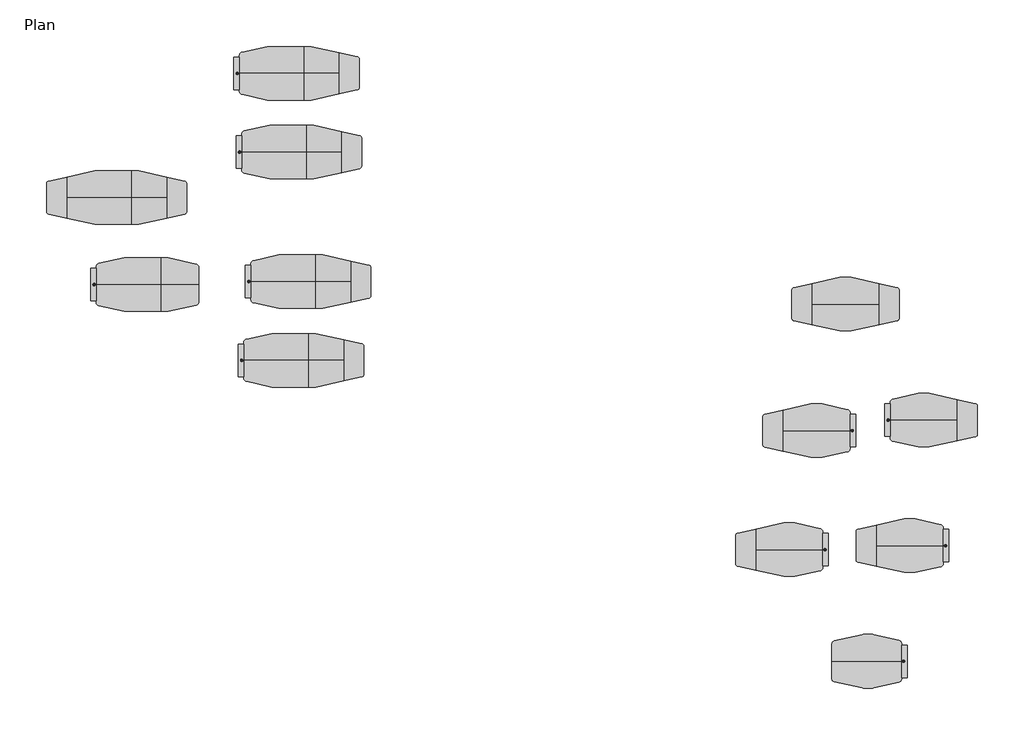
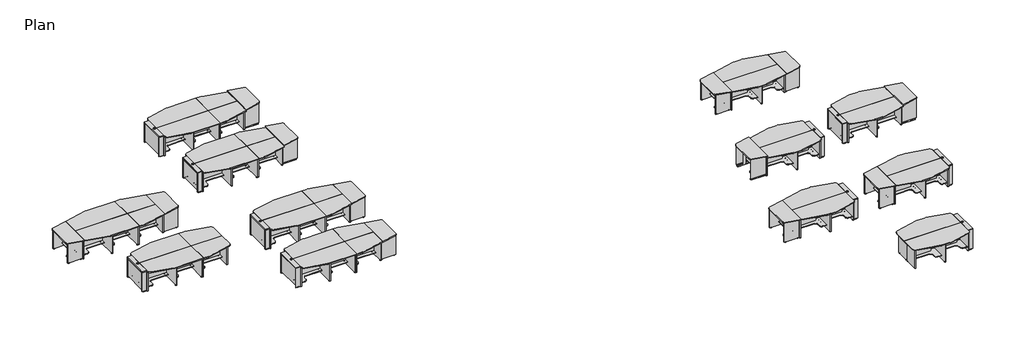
# One storey, incomplete: 12 furniture elements.
"""IFC4 building model written with IfcOpenShell, lengths in millimetres."""

from ifc_helpers import new_model, si_unit, origin, place, context, project, spatial, transform, mapped, element, save
from components import furniture_4_person_w_wire_compartment_36183c5d, furniture_4_person_w_wire_compartment_91efd73a, furniture_5_person_w_wire_compartment_perforated_70c40dab, furniture_5_person_w_wire_compartment_perforated_3ae8978b, furniture_5_person_w_wire_compartment_perforated_82e77ec8, furniture_5_person_w_wire_compartment_ada_perforated_2b3411b6, furniture_5_person_w_wire_compartment_ada_perforated_266a7b52, furniture_6_person_6b015cb4, furniture_6_person_dfd8cc7e, furniture_6_person_ace36e72, furniture_6_person_w_wire_compartment_566aee02, furniture_6_person_w_wire_compartment_4a659a42, furniture_6_person_w_wire_compartment_cabafdbb, furniture_7_person_w_wire_compartment_perforated_d2921011, furniture_7_person_w_wire_compartment_perforated_f4f33cce, furniture_7_person_w_wire_compartment_perforated_33649b7c, furniture_7_person_w_wire_compartment_perforated_2ec6243c, furniture_7_person_w_wire_compartment_ada_2b6aad6f, furniture_8_person_w_wire_compartment_c8a4825b, furniture_8_person_w_wire_compartment_190e666a, furniture_8_person_w_wire_compartment_3d312d08

model = new_model("IFC4")

# Units and contexts
model_context = context("Model", 3, world=origin())
ifc_project = project(units=[si_unit("LENGTHUNIT", "METRE", prefix="MILLI")], contexts=[model_context])

# Site, building, storey
site = spatial("IfcSite", under=ifc_project)
building = spatial("IfcBuilding", under=site)
storey = spatial("IfcBuildingStorey", under=building, Name="Plan", Elevation=0.0)

# Furniture
placement = place(None, origin())
furniture_4_person_w_wire_compartment_shape = furniture_4_person_w_wire_compartment_36183c5d(model_context)
furniture_4_person_w_wire_compartment_2_shape = furniture_4_person_w_wire_compartment_91efd73a(model_context)
element("IfcFurniture", 1, ObjectType="Nova Solutions - Collaboration Table - Boat_4-6 person : 4 person w/ Wire Compartment", at=placement, inside=storey, context=model_context, shape_type="MappedRepresentation", body=[
    mapped(furniture_4_person_w_wire_compartment_shape, transform((24037.5011826, -10913.4071158, 0.0), x_axis=(1.0, 0.0, 0.0), y_axis=(0.0, 1.0, 0.0), z_axis=(0.0, 0.0, 1.0))),
    mapped(furniture_4_person_w_wire_compartment_2_shape, transform((24037.5011826, -10913.4071158, 0.0), x_axis=(1.0, 0.0, 0.0), y_axis=(0.0, 1.0, 0.0), z_axis=(0.0, 0.0, 1.0))),
])
furniture_5_person_w_wire_compartment_perforated_shape = furniture_5_person_w_wire_compartment_perforated_70c40dab(model_context)
furniture_5_person_w_wire_compartment_perforated_2_shape = furniture_5_person_w_wire_compartment_perforated_3ae8978b(model_context)
furniture_5_person_w_wire_compartment_perforated_3_shape = furniture_5_person_w_wire_compartment_perforated_82e77ec8(model_context)
element("IfcFurniture", 2, ObjectType="Nova Solutions - Collaboration Table - Boat_4-6 person : 5 person w/ Wire Compartment", at=placement, inside=storey, context=model_context, shape_type="MappedRepresentation", body=[
    mapped(furniture_5_person_w_wire_compartment_perforated_shape, transform((25217.4890139, -7643.5156998, 0.0), x_axis=(1.0, 0.0, 0.0), y_axis=(0.0, 1.0, 0.0), z_axis=(0.0, 0.0, 1.0))),
    mapped(furniture_5_person_w_wire_compartment_perforated_2_shape, transform((25217.4890139, -7643.5156998, 0.0), x_axis=(1.0, 0.0, 0.0), y_axis=(0.0, 1.0, 0.0), z_axis=(0.0, 0.0, 1.0))),
    mapped(furniture_5_person_w_wire_compartment_perforated_3_shape, transform((25217.4890139, -7643.5156998, 0.0), x_axis=(1.0, 0.0, 0.0), y_axis=(0.0, 1.0, 0.0), z_axis=(0.0, 0.0, 1.0))),
])
furniture_5_person_w_wire_compartment_ada_perforated_shape = furniture_5_person_w_wire_compartment_ada_perforated_2b3411b6(model_context)
furniture_5_person_w_wire_compartment_ada_perforated_2_shape = furniture_5_person_w_wire_compartment_ada_perforated_266a7b52(model_context)
element("IfcFurniture", 3, ObjectType="Nova Solutions - Collaboration Table - Boat_4-6 person : 5 person w/ Wire Compartment - ADA", at=placement, inside=storey, context=model_context, shape_type="MappedRepresentation", body=[
    mapped(furniture_5_person_w_wire_compartment_ada_perforated_shape, transform((25561.2910072, -4092.2532152, 0.0), x_axis=(-1.0, 0.0, 0.0), y_axis=(0.0, -1.0, 0.0), z_axis=(0.0, 0.0, 1.0))),
    mapped(furniture_5_person_w_wire_compartment_ada_perforated_2_shape, transform((25561.2910072, -4092.2532152, 0.0), x_axis=(-1.0, 0.0, 0.0), y_axis=(0.0, -1.0, 0.0), z_axis=(0.0, 0.0, 1.0))),
])
element("IfcFurniture", 4, ObjectType="Nova Solutions - Collaboration Table - Boat_4-6 person : 5 person w/ Wire Compartment - ADA - Perforated", at=placement, inside=storey, context=model_context, shape_type="MappedRepresentation", body=[
    mapped(furniture_5_person_w_wire_compartment_ada_perforated_shape, transform((22582.6804324, -4390.3588772, 0.0), x_axis=(1.0, 0.0, 0.0), y_axis=(0.0, 1.0, 0.0), z_axis=(0.0, 0.0, 1.0))),
    mapped(furniture_5_person_w_wire_compartment_ada_perforated_2_shape, transform((22582.6804324, -4390.3588772, 0.0), x_axis=(1.0, 0.0, 0.0), y_axis=(0.0, 1.0, 0.0), z_axis=(0.0, 0.0, 1.0))),
])
element("IfcFurniture", 5, ObjectType="Nova Solutions - Collaboration Table - Boat_4-6 person : 5 person w/ Wire Compartment - Perforated", at=placement, inside=storey, context=model_context, shape_type="MappedRepresentation", body=[
    mapped(furniture_5_person_w_wire_compartment_perforated_shape, transform((21811.4609826, -7756.3223711, 0.0), x_axis=(1.0, 0.0, 0.0), y_axis=(0.0, 1.0, 0.0), z_axis=(0.0, 0.0, 1.0))),
    mapped(furniture_5_person_w_wire_compartment_perforated_2_shape, transform((21811.4609826, -7756.3223711, 0.0), x_axis=(1.0, 0.0, 0.0), y_axis=(0.0, 1.0, 0.0), z_axis=(0.0, 0.0, 1.0))),
    mapped(furniture_5_person_w_wire_compartment_perforated_3_shape, transform((21811.4609826, -7756.3223711, 0.0), x_axis=(1.0, 0.0, 0.0), y_axis=(0.0, 1.0, 0.0), z_axis=(0.0, 0.0, 1.0))),
])
furniture_6_person_shape = furniture_6_person_6b015cb4(model_context)
furniture_6_person_2_shape = furniture_6_person_dfd8cc7e(model_context)
furniture_6_person_3_shape = furniture_6_person_ace36e72(model_context)
element("IfcFurniture", 6, ObjectType="Nova Solutions - Collaboration Table - Boat_4-6 person : 6 person", at=placement, inside=storey, context=model_context, shape_type="MappedRepresentation", body=[
    mapped(furniture_6_person_shape, transform((23400.7154796, -810.8116908, 0.0), x_axis=(1.0, 0.0, 0.0), y_axis=(0.0, 1.0, 0.0), z_axis=(0.0, 0.0, 1.0))),
    mapped(furniture_6_person_2_shape, transform((23400.7154796, -810.8116908, 0.0), x_axis=(1.0, 0.0, 0.0), y_axis=(0.0, 1.0, 0.0), z_axis=(0.0, 0.0, 1.0))),
    mapped(furniture_6_person_3_shape, transform((23400.7154796, -810.8116908, 0.0), x_axis=(1.0, 0.0, 0.0), y_axis=(0.0, 1.0, 0.0), z_axis=(0.0, 0.0, 1.0))),
])
furniture_6_person_w_wire_compartment_shape = furniture_6_person_w_wire_compartment_566aee02(model_context)
furniture_6_person_w_wire_compartment_2_shape = furniture_6_person_w_wire_compartment_4a659a42(model_context)
furniture_6_person_w_wire_compartment_3_shape = furniture_6_person_w_wire_compartment_cabafdbb(model_context)
element("IfcFurniture", 7, ObjectType="Nova Solutions - Collaboration Table - Boat_6-8 person : 6 person w/ Wire Compartment", at=placement, inside=storey, context=model_context, shape_type="MappedRepresentation", body=[
    mapped(furniture_6_person_w_wire_compartment_shape, transform((3100.4930544, -257.0656341, 0.0), x_axis=(-1.0, 0.0, 0.0), y_axis=(0.0, -1.0, 0.0), z_axis=(0.0, 0.0, 1.0))),
    mapped(furniture_6_person_w_wire_compartment_2_shape, transform((3100.4930544, -257.0656341, 0.0), x_axis=(-1.0, 0.0, 0.0), y_axis=(0.0, -1.0, 0.0), z_axis=(0.0, 0.0, 1.0))),
    mapped(furniture_6_person_w_wire_compartment_3_shape, transform((3100.4930544, -257.0656341, 0.0), x_axis=(-1.0, 0.0, 0.0), y_axis=(0.0, -1.0, 0.0), z_axis=(0.0, 0.0, 1.0))),
])
furniture_7_person_w_wire_compartment_perforated_shape = furniture_7_person_w_wire_compartment_perforated_d2921011(model_context)
furniture_7_person_w_wire_compartment_perforated_2_shape = furniture_7_person_w_wire_compartment_perforated_f4f33cce(model_context)
furniture_7_person_w_wire_compartment_perforated_3_shape = furniture_7_person_w_wire_compartment_perforated_33649b7c(model_context)
furniture_7_person_w_wire_compartment_perforated_4_shape = furniture_7_person_w_wire_compartment_perforated_2ec6243c(model_context)
element("IfcFurniture", 8, ObjectType="Nova Solutions - Collaboration Table - Boat_6-8 person : 7 person w/ Wire Compartment", at=placement, inside=storey, context=model_context, shape_type="MappedRepresentation", body=[
    mapped(furniture_7_person_w_wire_compartment_perforated_shape, transform((7274.2939675, -2400.2620347, 0.0), x_axis=(-1.0, 0.0, 0.0), y_axis=(0.0, -1.0, 0.0), z_axis=(0.0, 0.0, 1.0))),
    mapped(furniture_7_person_w_wire_compartment_perforated_2_shape, transform((7274.2939675, -2400.2620347, 0.0), x_axis=(-1.0, 0.0, 0.0), y_axis=(0.0, -1.0, 0.0), z_axis=(0.0, 0.0, 1.0))),
    mapped(furniture_7_person_w_wire_compartment_perforated_3_shape, transform((7274.2939675, -2400.2620347, 0.0), x_axis=(-1.0, 0.0, 0.0), y_axis=(0.0, -1.0, 0.0), z_axis=(0.0, 0.0, 1.0))),
    mapped(furniture_7_person_w_wire_compartment_perforated_4_shape, transform((7274.2939675, -2400.2620347, 0.0), x_axis=(-1.0, 0.0, 0.0), y_axis=(0.0, -1.0, 0.0), z_axis=(0.0, 0.0, 1.0))),
])
furniture_7_person_w_wire_compartment_ada_shape = furniture_7_person_w_wire_compartment_ada_2b6aad6f(model_context)
element("IfcFurniture", 9, ObjectType="Nova Solutions - Collaboration Table - Boat_6-8 person : 7 person w/ Wire Compartment - ADA", at=placement, inside=storey, context=model_context, shape_type="MappedRepresentation", body=[
    mapped(furniture_7_person_w_wire_compartment_ada_shape, transform((7212.8928426, 3491.61273, 0.0), x_axis=(-1.0, 0.0, 0.0), y_axis=(0.0, -1.0, 0.0), z_axis=(0.0, 0.0, 1.0))),
    mapped(furniture_6_person_w_wire_compartment_2_shape, transform((7212.8928426, 3491.61273, 0.0), x_axis=(-1.0, 0.0, 0.0), y_axis=(0.0, -1.0, 0.0), z_axis=(0.0, 0.0, 1.0))),
    mapped(furniture_6_person_w_wire_compartment_3_shape, transform((7212.8928426, 3491.61273, 0.0), x_axis=(-1.0, 0.0, 0.0), y_axis=(0.0, -1.0, 0.0), z_axis=(0.0, 0.0, 1.0))),
])
element("IfcFurniture", 10, ObjectType="Nova Solutions - Collaboration Table - Boat_6-8 person : 7 person w/ Wire Compartment - Perforated", at=placement, inside=storey, context=model_context, shape_type="MappedRepresentation", body=[
    mapped(furniture_7_person_w_wire_compartment_perforated_shape, transform((7474.4236604, -174.5877167, 0.0), x_axis=(-1.0, 0.0, 0.0), y_axis=(0.0, -1.0, 0.0), z_axis=(0.0, 0.0, 1.0))),
    mapped(furniture_7_person_w_wire_compartment_perforated_2_shape, transform((7474.4236604, -174.5877167, 0.0), x_axis=(-1.0, 0.0, 0.0), y_axis=(0.0, -1.0, 0.0), z_axis=(0.0, 0.0, 1.0))),
    mapped(furniture_7_person_w_wire_compartment_perforated_3_shape, transform((7474.4236604, -174.5877167, 0.0), x_axis=(-1.0, 0.0, 0.0), y_axis=(0.0, -1.0, 0.0), z_axis=(0.0, 0.0, 1.0))),
    mapped(furniture_7_person_w_wire_compartment_perforated_4_shape, transform((7474.4236604, -174.5877167, 0.0), x_axis=(-1.0, 0.0, 0.0), y_axis=(0.0, -1.0, 0.0), z_axis=(0.0, 0.0, 1.0))),
])
element("IfcFurniture", 11, ObjectType="Nova Solutions - Collaboration Table - Boat_6-8 person : 7 person w/ Wire Compartment - Perforated - ADA", at=placement, inside=storey, context=model_context, shape_type="MappedRepresentation", body=[
    mapped(furniture_7_person_w_wire_compartment_ada_shape, transform((7148.2874632, 5718.3014194, 0.0), x_axis=(-1.0, 0.0, 0.0), y_axis=(0.0, -1.0, 0.0), z_axis=(0.0, 0.0, 1.0))),
    mapped(furniture_6_person_w_wire_compartment_2_shape, transform((7148.2874632, 5718.3014194, 0.0), x_axis=(-1.0, 0.0, 0.0), y_axis=(0.0, -1.0, 0.0), z_axis=(0.0, 0.0, 1.0))),
    mapped(furniture_6_person_w_wire_compartment_3_shape, transform((7148.2874632, 5718.3014194, 0.0), x_axis=(-1.0, 0.0, 0.0), y_axis=(0.0, -1.0, 0.0), z_axis=(0.0, 0.0, 1.0))),
])
furniture_8_person_w_wire_compartment_shape = furniture_8_person_w_wire_compartment_c8a4825b(model_context)
furniture_8_person_w_wire_compartment_2_shape = furniture_8_person_w_wire_compartment_190e666a(model_context)
furniture_8_person_w_wire_compartment_3_shape = furniture_8_person_w_wire_compartment_3d312d08(model_context)
element("IfcFurniture", 12, ObjectType="Nova Solutions - Collaboration Table - Boat_6-8 person : 8 person w/ Wire Compartment", at=placement, inside=storey, context=model_context, shape_type="MappedRepresentation", body=[
    mapped(furniture_7_person_w_wire_compartment_perforated_shape, transform((2262.8208904, 2202.8198544, 0.0), x_axis=(-1.0, 0.0, 0.0), y_axis=(0.0, -1.0, 0.0), z_axis=(0.0, 0.0, 1.0))),
    mapped(furniture_8_person_w_wire_compartment_shape, transform((2262.8208904, 2202.8198544, 0.0), x_axis=(-1.0, 0.0, 0.0), y_axis=(0.0, -1.0, 0.0), z_axis=(0.0, 0.0, 1.0))),
    mapped(furniture_8_person_w_wire_compartment_2_shape, transform((2262.8208904, 2202.8198544, 0.0), x_axis=(-1.0, 0.0, 0.0), y_axis=(0.0, -1.0, 0.0), z_axis=(0.0, 0.0, 1.0))),
    mapped(furniture_8_person_w_wire_compartment_3_shape, transform((2262.8208904, 2202.8198544, 0.0), x_axis=(-1.0, 0.0, 0.0), y_axis=(0.0, -1.0, 0.0), z_axis=(0.0, 0.0, 1.0))),
])

save(model, "model.ifc")
